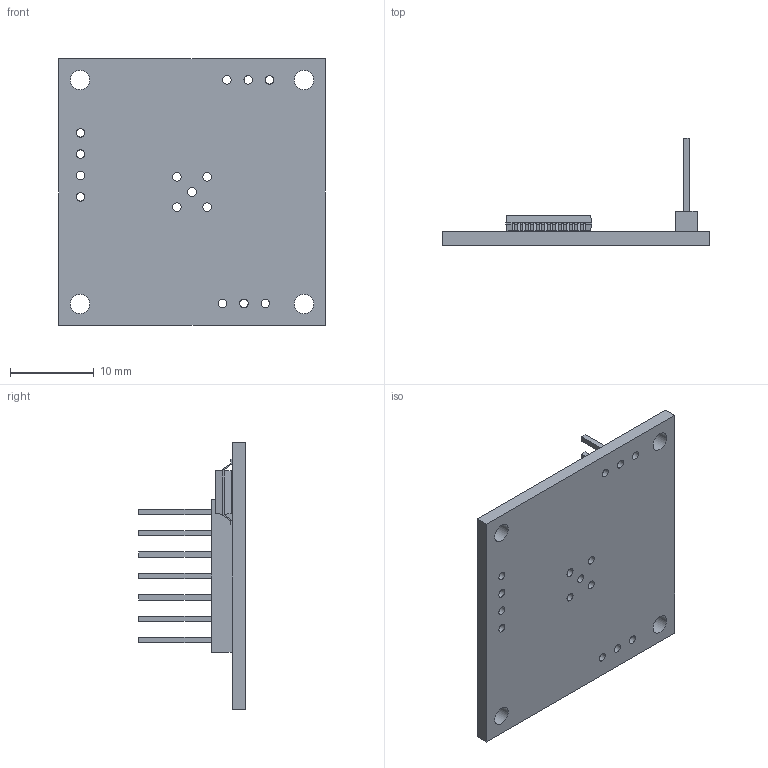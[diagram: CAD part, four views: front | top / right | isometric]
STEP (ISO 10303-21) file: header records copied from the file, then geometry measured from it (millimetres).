
FILE_DESCRIPTION (( 'STEP AP214' ), '1' );
FILE_NAME ('1-6200-00X.STEP', '2024-08-07T14:06:39', ( '' ), ( '' ), 'SwSTEP 2.0', 'SolidWorks 2024', '' );
FILE_SCHEMA (( 'AUTOMOTIVE_DESIGN' ));
Length unit declared in the file: inch
Products named in the file (1): 1-6200-00X
Bounding box: 31.75 x 12.7 x 31.75 mm (x, y, z)
Volume: 1785.1 mm3; surface area: 2741.3 mm2
Topology: 30 solids, 30 shells, 453 faces, 1136 edges, 752 vertices
Faces by surface type: plane 341, cylinder 112
Full cylindrical faces by diameter (mm): 0.663 x1, 1.016 x15, 2.286 x4
Entity records: 19641 total; most frequent: CARTESIAN_POINT 2346, ORIENTED_EDGE 2232, DIRECTION 2224, EDGE_CURVE 1116, VECTOR 900, LINE 900, VERTEX_POINT 752, AXIS2_PLACEMENT_3D 662
